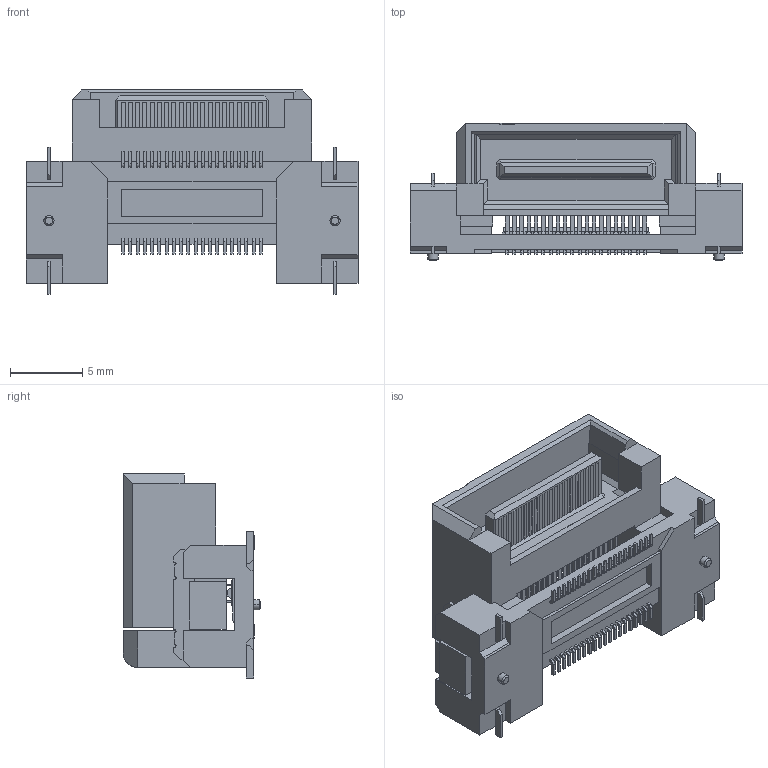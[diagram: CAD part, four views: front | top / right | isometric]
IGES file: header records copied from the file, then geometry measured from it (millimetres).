
Start section: Elysium IGES Interface
Global section: file name: 69HC:\Users\1314\Desktop\temp\回覧用-一時的\DTXX\40\P3D045_DT01-040L.igs; native system: Creo Elements/Direct Modeling 19.0F  14-Feb-2017; preprocessor: Creo Element/Direct IGES_3D V2.2; author: Unknown; organization: Unknown; date: 20170718.110857; units: millimetre
Bounding box: 22.92 x 9.5 x 14.09 mm (x, y, z)
Volume: 937.1 mm3; surface area: 2102.9 mm2
Topology: 1 solids, 1 shells, 2050 faces, 5708 edges, 3724 vertices
Faces by surface type: bspline 2050
